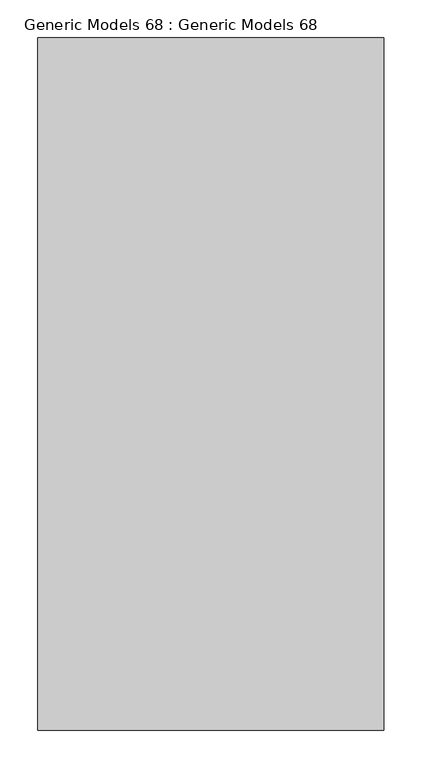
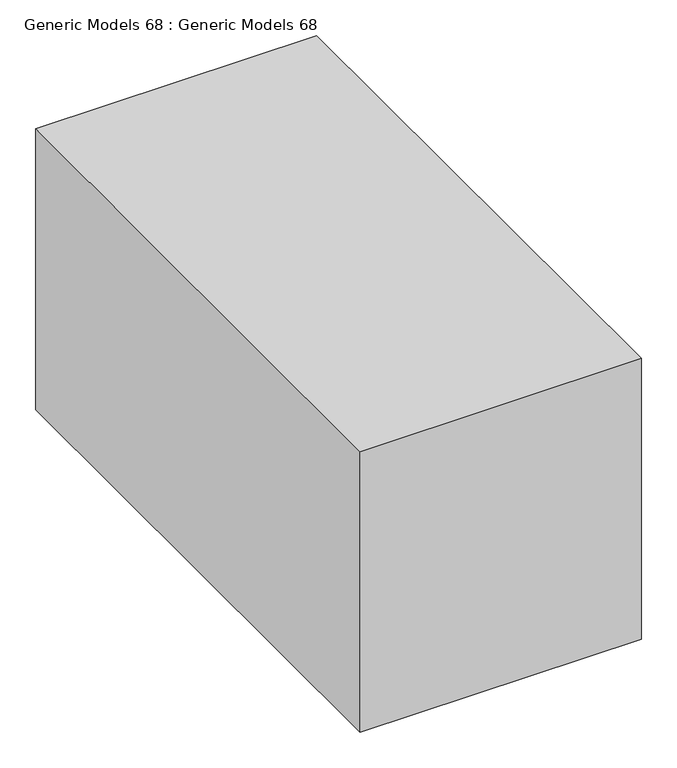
"""IFC4 building model written with IfcOpenShell, lengths in millimetres: proxy geometry, Generic Models 68 : Generic Models 68."""

from ifc_helpers import new_model, si_unit, frame, origin, place, context, project, spatial, polyline, outline, extrude, source, transform, mapped, element, save


def generic_models_68_generic_models_68_d109ae78(model_context):
    return source(origin(), model_context, "Body", "SweptSolid", [
        extrude(outline(polyline([(-177.8, 11137.9), (279.4, 11137.9), (279.4, 10223.5), (-177.8, 10223.5), (-177.8, 11137.9)])), frame((0.0, 0.0, 3251.2), z_axis=(0.0, 0.0, 1.0), x_axis=(1.0, 0.0, 0.0)), (0.0, 0.0, 1.0), 482.6),
    ])


if __name__ == "__main__":
    model = new_model("IFC4")
    model_context = context("Model", 3, world=origin())
    ifc_project = project(units=[si_unit("LENGTHUNIT", "METRE", prefix="MILLI")], contexts=[model_context])
    site = spatial("IfcSite", under=ifc_project)
    building = spatial("IfcBuilding", under=site)
    placement = place(None, origin())
    generic_models_68_generic_models_68_shape = generic_models_68_generic_models_68_d109ae78(model_context)
    element("IfcBuildingElementProxy", 1, Name="Generic Models 68 : Generic Models 68", ObjectType="Generic Models 68 : Generic Models 68", at=placement, inside=building, context=model_context, shape_type="MappedRepresentation", body=[
        mapped(generic_models_68_generic_models_68_shape, transform((0.0, 0.0, 0.0), x_axis=(1.0, 0.0, 0.0), y_axis=(0.0, 1.0, 0.0), z_axis=(0.0, 0.0, 1.0))),
    ])
    save(model, "model.ifc")
